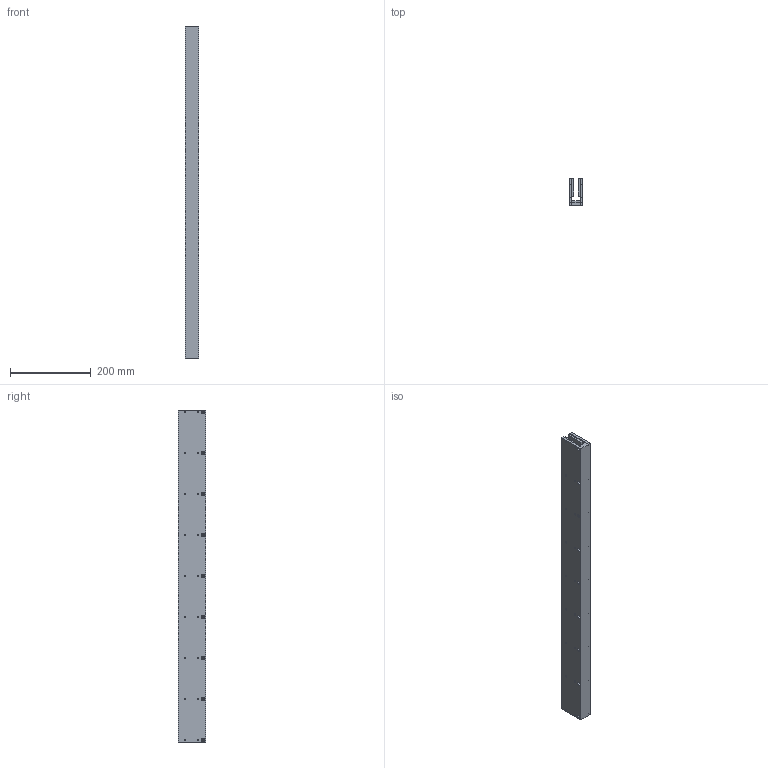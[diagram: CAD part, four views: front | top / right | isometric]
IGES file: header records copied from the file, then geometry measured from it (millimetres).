
Global section: file name: No Iges File Name specified; native system: Autodesk Inventor 2009; preprocessor: AutoDesk Inventor Iges Exporter R2009; author: je17857; date: 20091116.111530; units: inch
Bounding box: 34.29 x 67.31 x 822.96 mm (x, y, z)
Volume: 1229107.4 mm3; surface area: 311263.4 mm2
Topology: 1 solids, 1 shells, 442 faces, 1050 edges, 700 vertices
Faces by surface type: plane 298, bspline 144
